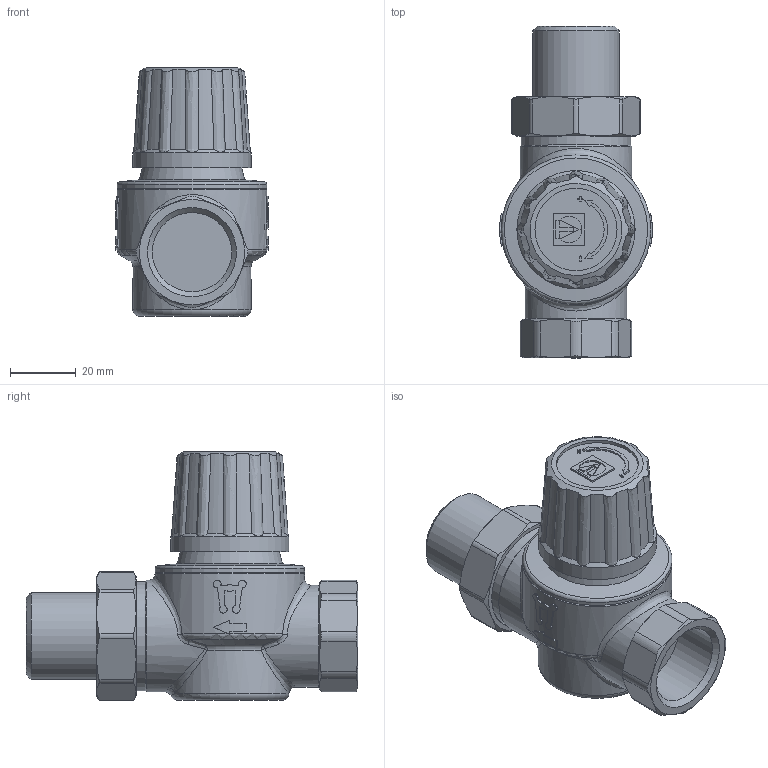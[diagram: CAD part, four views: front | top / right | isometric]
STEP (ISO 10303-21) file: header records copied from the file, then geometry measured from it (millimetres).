
FILE_DESCRIPTION(('STEP AP203'), '1');
FILE_NAME('VT.034.N.05', '', ('UNSPECIFIED'), ('UNSPECIFIED'), 'C3D Converter', 'C3D Toolkit', '');
FILE_SCHEMA(('CONFIG_CONTROL_DESIGN'));
Length unit declared in the file: millimetre
Products named in the file (1): ВР.493176.026.000 СБ
Bounding box: 46.5 x 101.04 x 75.79 mm (x, y, z)
Volume: 121962.7 mm3; surface area: 22664.2 mm2
Topology: 1 solids, 1 shells, 369 faces, 981 edges, 633 vertices
Faces by surface type: plane 150, extrusion 95, cylinder 46, cone 42, bspline 30, torus 6
Full cylindrical faces by diameter (mm): 20 x1, 24.118 x1, 25 x1, 26.441 x1, 27 x1, 30 x1, 31 x1, 33.249 x1, 34 x1, 36 x1, 45.5 x2
Entity records: 17542 total; most frequent: CARTESIAN_POINT 9394, ORIENTED_EDGE 1876, DIRECTION 1236, EDGE_CURVE 938, VERTEX_POINT 627, VECTOR 512, B_SPLINE_CURVE_WITH_KNOTS 476, EDGE_LOOP 419
